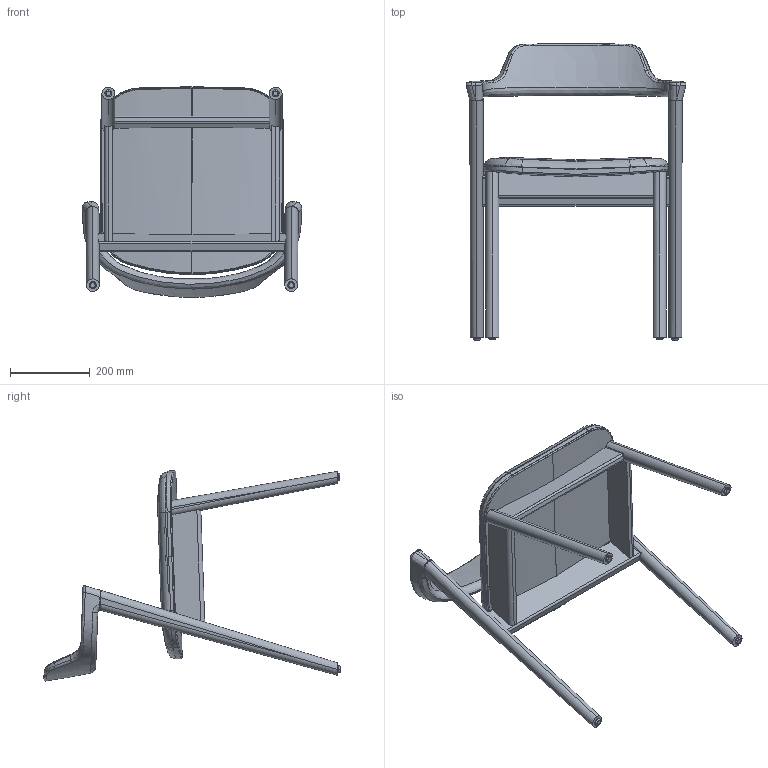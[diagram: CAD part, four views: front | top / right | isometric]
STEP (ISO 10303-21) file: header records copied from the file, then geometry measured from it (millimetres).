
FILE_DESCRIPTION (( 'STEP AP214' ), '1' );
FILE_NAME ('HIVEショートアームチェアー張CG.STEP', '2026-03-25T08:25:38', ( '' ), ( '' ), 'SwSTEP 2.0', 'SolidWorks 2025', '' );
FILE_SCHEMA (( 'AUTOMOTIVE_DESIGN' ));
Length unit declared in the file: millimetre
Products named in the file (1): HIVEショートアームチェアー張CG
Bounding box: 552.31 x 744.04 x 528.8 mm (x, y, z)
Volume: 17168250.8 mm3; surface area: 1543295 mm2
Topology: 15 solids, 15 shells, 333 faces, 793 edges, 490 vertices
Faces by surface type: cylinder 126, bspline 106, plane 85, cone 8, torus 8
Entity records: 22613 total; most frequent: CARTESIAN_POINT 15829, ORIENTED_EDGE 1578, DIRECTION 1098, EDGE_CURVE 789, VERTEX_POINT 490, AXIS2_PLACEMENT_3D 421, EDGE_LOOP 337, FACE_OUTER_BOUND 333
